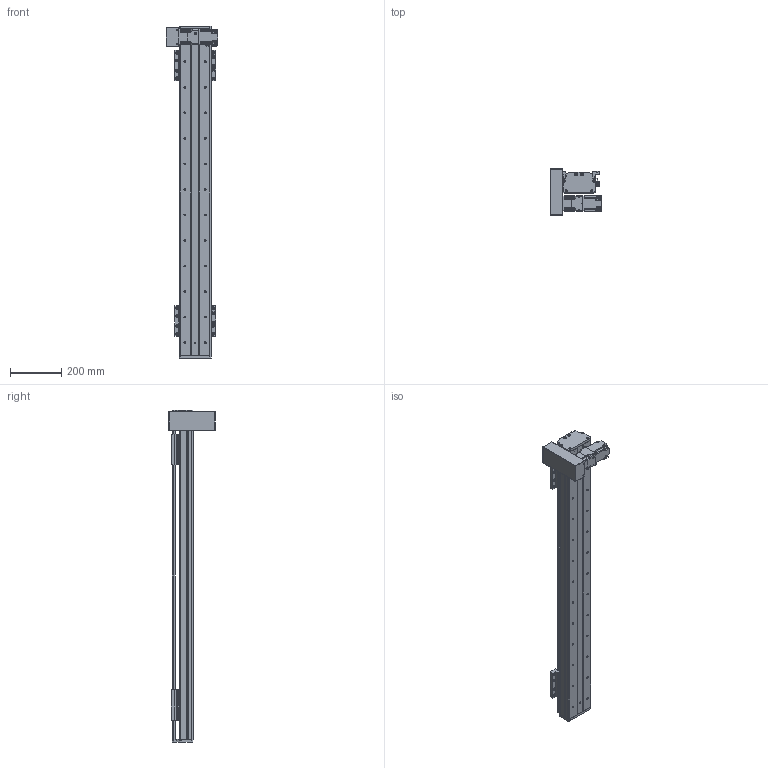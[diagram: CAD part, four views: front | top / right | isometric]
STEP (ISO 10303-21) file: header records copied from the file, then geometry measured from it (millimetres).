
FILE_DESCRIPTION(/* description */ (''),/* implementation_level */ '2;1');
FILE_NAME(/* name */ 'C:\Users\PC\Desktop\3D도면\STEP\DSB125-DL2G-W1000-R.stp',/* time_stamp */ '2018-06-21T14:50:41+09:00',/* author */ ('PC'),/* organization */ (''),/* preprocessor_version */ 'ST-DEVELOPER v16.5',/* originating_system */ 'Autodesk Inventor 2017',/* authorisation */ '');
FILE_SCHEMA (('AUTOMOTIVE_DESIGN { 1 0 10303 214 3 1 1 }'));
Length unit declared in the file: millimetre
Products named in the file (12): DSB125-L-300ST; DSR125-BASE(S-TYPE); DSR125-REAR COVER-R01(170203); DSR125-REAR COVER-R01(170203)_1; DSR125-UP COVER-R01(170203); hg-kr23_; ab0601-p0401200402; 13-BELT COVER; DSR126-SENSOR DOG; pm-y65_step; SENSOR BRACKET(EE-SX674A); DSR125-TABLE(MSA15X)
Assembly tree (16 placements, depth 2):
  DSB125-L-300ST
    DSR125-BASE(S-TYPE)
    DSR125-REAR COVER-R01(170203)
    DSR125-REAR COVER-R01(170203)_1
    DSR125-UP COVER-R01(170203)
    hg-kr23_
    ab0601-p0401200402
    13-BELT COVER
    DSR126-SENSOR DOG
    pm-y65_step  x3
    SENSOR BRACKET(EE-SX674A)  x3
    DSR125-TABLE(MSA15X)  x2
Bounding box: 202.1 x 182 x 1300 mm (x, y, z)
Volume: 4819336 mm3; surface area: 1389031.4 mm2
Topology: 17 solids, 22 shells, 1673 faces, 4531 edges, 2988 vertices
Faces by surface type: plane 908, cylinder 637, cone 116, sphere 8, torus 4
Full cylindrical faces by diameter (mm): 2.459 x20, 3.242 x16, 3.5 x6, 4 x1, 4.134 x16, 4.2 x4, 4.3 x1, 4.5 x50, 4.917 x20, 5 x27, 5.3 x1, 5.5 x4, 5.6 x8, 5.8 x4, 5.9 x8, 6 x4, 6.6 x22, 6.647 x26, 7.5 x32, 8.5 x8, 8.7 x1, 11 x22, 14 x1, 16 x2, 17 x1, 20 x1, 47 x1, 50 x3
Entity records: 35590 total; most frequent: CARTESIAN_POINT 6535, DIRECTION 6172, ORIENTED_EDGE 5502, EDGE_CURVE 2756, AXIS2_PLACEMENT_3D 2274, VERTEX_POINT 1965, EDGE_LOOP 1697, LINE 1624
